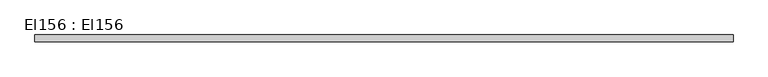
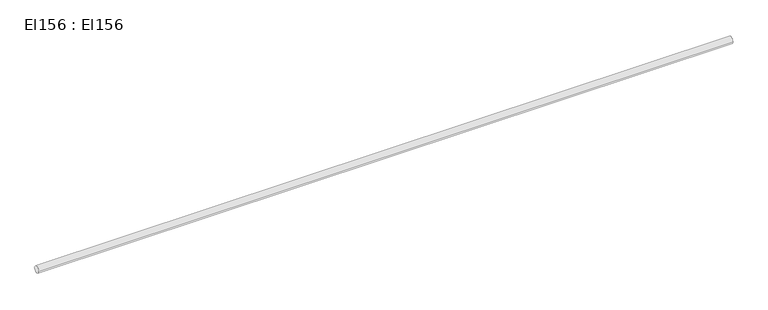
"""IFC4 building model written with IfcOpenShell, lengths in millimetres: cable carrier segment geometry, El156 : El156."""

import ifcopenshell
import ifcopenshell.guid

model = None  # the IFC model being written
_history = None  # IfcOwnerHistory: only IFC2X3 demands one
_inside = {}  # id of a spatial element -> (the spatial element, [elements in it])
_under = {}  # id of a project, library or spatial element -> (it, [spatial elements below it])
_declared = {}  # id of a project -> (the project, [libraries it declares])
_typed = {}  # id of a type object -> (the type object, [elements of that type])
_made_of = {}  # id of a material, layer set ... -> (it, [elements and type objects made of it])


def new_model(schema):
    """Start an empty IFC model of exactly this schema.

    Asked for "IFC4X3", IfcOpenShell would pick the latest addendum, in which some entities
    have other attributes; the version numbers below select the first issue.
    IFC2X3 requires an IfcOwnerHistory on every rooted entity: one is made here for all.
    """
    global model, _history
    if schema == "IFC4X3":
        model = ifcopenshell.file(schema_version=(4, 3, 0, 0))
    else:
        model = ifcopenshell.file(schema=schema)
    _inside.clear()
    _under.clear()
    _declared.clear()
    _typed.clear()
    _made_of.clear()
    _history = None
    if model.schema == "IFC2X3":
        org = make("IfcOrganization", Name="unknown")
        user = make(
            "IfcPersonAndOrganization",
            ThePerson=make("IfcPerson", FamilyName="unknown"),
            TheOrganization=org,
        )
        app = make(
            "IfcApplication",
            ApplicationDeveloper=org,
            Version="unknown",
            ApplicationFullName="unknown",
            ApplicationIdentifier="unknown",
        )
        _history = make(
            "IfcOwnerHistory",
            OwningUser=user,
            OwningApplication=app,
            ChangeAction="ADDED",
            CreationDate=0,
        )
    return model


def make(cls, **values):
    """One entity of the class cls with the attributes given. An attribute that is None is left unset."""
    return model.create_entity(
        cls, **{name: value for name, value in values.items() if value is not None}
    )


def rooted(cls, **values):
    """An entity with a GlobalId (a new one), such as an element, a storey or a relation."""
    return make(cls, GlobalId=ifcopenshell.guid.new(), OwnerHistory=_history, **values)


def si_unit(unit_type, name, prefix=None):
    """IfcSIUnit, for example si_unit("LENGTHUNIT", "METRE", prefix="MILLI")."""
    return make("IfcSIUnit", UnitType=unit_type, Prefix=prefix, Name=name)


def assignment(units):
    """IfcUnitAssignment: the units of a project."""
    return None if units is None else make("IfcUnitAssignment", Units=units)


def point(xyz):
    """IfcCartesianPoint."""
    return None if xyz is None else make("IfcCartesianPoint", Coordinates=xyz)


def direction(xyz):
    """IfcDirection."""
    return None if xyz is None else make("IfcDirection", DirectionRatios=xyz)


def frame(location, z_axis=None, x_axis=None):
    """IfcAxis2Placement3D, a coordinate frame: its origin and axes. An axis left out is left unset."""
    return make(
        "IfcAxis2Placement3D",
        Location=point(location),
        Axis=direction(z_axis),
        RefDirection=direction(x_axis),
    )


def frame_2d(location, x_axis=None):
    """IfcAxis2Placement2D, a coordinate frame in the plane: its origin and x axis."""
    return make(
        "IfcAxis2Placement2D", Location=point(location), RefDirection=direction(x_axis)
    )


def origin():
    """The frame at (0, 0, 0) with its axes left unset."""
    return frame((0.0, 0.0, 0.0))


def place(relative_to, where):
    """IfcLocalPlacement: puts the frame where relative to a parent placement (None: the world)."""
    return make(
        "IfcLocalPlacement", PlacementRelTo=relative_to, RelativePlacement=where
    )


def context(
    kind, dimensions, precision=None, world=None, true_north=None, identifier=None
):
    """IfcGeometricRepresentationContext, for example the 3D "Model" context."""
    return make(
        "IfcGeometricRepresentationContext",
        ContextIdentifier=identifier,
        ContextType=kind,
        CoordinateSpaceDimension=dimensions,
        Precision=precision,
        WorldCoordinateSystem=world,
        TrueNorth=true_north,
    )


def project(units=None, contexts=None):
    """IfcProject with its units and contexts."""
    return rooted(
        "IfcProject",
        Name="project",
        RepresentationContexts=contexts,
        UnitsInContext=assignment(units),
    )


def spatial(cls, under=None, at=None, **own):
    """A site, building, storey or space (cls), placed at a placement, below another one or the project."""
    s = rooted(cls, ObjectPlacement=at, **own)
    if under is not None:
        _under.setdefault(under.id(), (under, []))[1].append(s)
    return s


def circle_curve(where, radius):
    """IfcCircle in the frame where."""
    return make("IfcCircle", Position=where, Radius=radius)


def trimmed(basis, trim1, trim2, sense, master):
    """IfcTrimmedCurve: the piece of a basis curve between two trims."""
    return make(
        "IfcTrimmedCurve",
        BasisCurve=basis,
        Trim1=trim1,
        Trim2=trim2,
        SenseAgreement=sense,
        MasterRepresentation=master,
    )


def segment(curve, same_sense, transition):
    """IfcCompositeCurveSegment."""
    return make(
        "IfcCompositeCurveSegment",
        Transition=transition,
        SameSense=same_sense,
        ParentCurve=curve,
    )


def composite_curve(segments, self_intersect=None):
    """IfcCompositeCurve: segments joined end to end."""
    return make("IfcCompositeCurve", Segments=segments, SelfIntersect=self_intersect)


def outline(outer, holes=None, kind="AREA"):
    """IfcArbitraryClosedProfileDef: a profile drawn as a closed curve; with holes, ...WithVoids."""
    if holes is None:
        return make("IfcArbitraryClosedProfileDef", ProfileType=kind, OuterCurve=outer)
    return make(
        "IfcArbitraryProfileDefWithVoids",
        ProfileType=kind,
        OuterCurve=outer,
        InnerCurves=holes,
    )


def extrude(swept, where, along, depth):
    """IfcExtrudedAreaSolid: the profile swept, set in the frame where, extruded along a direction by depth."""
    return make(
        "IfcExtrudedAreaSolid",
        SweptArea=swept,
        Position=where,
        ExtrudedDirection=direction(along),
        Depth=depth,
    )


def shape(context_of_items, identifier, shape_type, items):
    """IfcShapeRepresentation: the items that make up one representation, for example the "Body"."""
    return make(
        "IfcShapeRepresentation",
        ContextOfItems=context_of_items,
        RepresentationIdentifier=identifier,
        RepresentationType=shape_type,
        Items=items,
    )


def source(mapping_origin, context_of_items, identifier, shape_type, items):
    """IfcRepresentationMap: a shape defined once, which mapped items show again and again."""
    return make(
        "IfcRepresentationMap",
        MappingOrigin=mapping_origin,
        MappedRepresentation=shape(context_of_items, identifier, shape_type, items),
    )


def transform(
    local_origin,
    x_axis=None,
    y_axis=None,
    z_axis=None,
    scale=None,
    scale2=None,
    scale3=None,
    uniform=True,
):
    """IfcCartesianTransformationOperator3D, or its non-uniform kind. x_axis, y_axis, z_axis: its Axis1, 2, 3."""
    if uniform:
        return make(
            "IfcCartesianTransformationOperator3D",
            Axis1=direction(x_axis),
            Axis2=direction(y_axis),
            LocalOrigin=point(local_origin),
            Scale=scale,
            Axis3=direction(z_axis),
        )
    return make(
        "IfcCartesianTransformationOperator3DnonUniform",
        Axis1=direction(x_axis),
        Axis2=direction(y_axis),
        LocalOrigin=point(local_origin),
        Scale=scale,
        Axis3=direction(z_axis),
        Scale2=scale2,
        Scale3=scale3,
    )


def mapped(mapping_source, mapping_target):
    """IfcMappedItem: shows the shape of a source again, moved by a transform."""
    return make(
        "IfcMappedItem", MappingSource=mapping_source, MappingTarget=mapping_target
    )


def made_of(thing, what):
    """Note that an element or type object is made of a material, layer set ...; save() writes the relation."""
    if what is not None:
        _made_of.setdefault(what.id(), (what, []))[1].append(thing)
    return thing


def element(
    cls,
    number,
    at=None,
    inside=None,
    cuts=None,
    type_object=None,
    material=None,
    context=None,
    identifier="Body",
    shape_type=None,
    held_by="IfcProductDefinitionShape",
    body=None,
    shapes=None,
    **own,
):
    """One element of the class cls, such as IfcWall. Its Tag is "e" and its number.

    at: its placement. inside: the storey or other place that contains it. cuts: it is an
    opening in that element (IfcRelVoidsElement). A single representation is given by context,
    identifier, shape_type and body (its items); several are given by shapes. held_by: the class
    of the entity that holds the representations. save() writes the other relations.
    """
    e = rooted(cls, Tag="e%d" % number, ObjectPlacement=at, **own)
    if body is not None:
        shapes = [shape(context, identifier, shape_type, body)]
    if shapes is not None:
        e.Representation = make(held_by, Representations=shapes)
    if inside is not None:
        _inside.setdefault(inside.id(), (inside, []))[1].append(e)
    if cuts is not None:
        rooted(
            "IfcRelVoidsElement", RelatingBuildingElement=cuts, RelatedOpeningElement=e
        )
    if type_object is not None:
        _typed.setdefault(type_object.id(), (type_object, []))[1].append(e)
    return made_of(e, material)


def aggregate(whole, parts):
    """IfcRelAggregates: a whole, such as a stair, and the parts it consists of."""
    return rooted("IfcRelAggregates", RelatingObject=whole, RelatedObjects=parts)


def save(model, path):
    """Write the relations noted so far, then the file.

    IfcRelAggregates (storeys below a building ...), IfcRelContainedInSpatialStructure (elements
    in a storey), IfcRelDefinesByType, IfcRelAssociatesMaterial and IfcRelDeclares: one each for
    every whole, place, type object, material and project.
    """
    for whole, parts in _under.values():
        aggregate(whole, parts)
    for where, things in _inside.values():
        rooted(
            "IfcRelContainedInSpatialStructure",
            RelatedElements=things,
            RelatingStructure=where,
        )
    for kind, things in _typed.values():
        rooted("IfcRelDefinesByType", RelatedObjects=things, RelatingType=kind)
    for what, things in _made_of.values():
        rooted("IfcRelAssociatesMaterial", RelatedObjects=things, RelatingMaterial=what)
    for by, libraries in _declared.values():
        rooted("IfcRelDeclares", RelatingContext=by, RelatedDefinitions=libraries)
    model.write(path)


def el156_el156_14b0a48c(model_context):
    return source(origin(), model_context, "Body", "SweptSolid", [
        extrude(outline(composite_curve([segment(trimmed(circle_curve(frame_2d((10097.1, 2950.0)), 9.5), [point((10087.6, 2950.0))], [point((10106.6, 2950.0))], False, "CARTESIAN"), True, "CONTINUOUS"), segment(trimmed(circle_curve(frame_2d((10097.1, 2950.0)), 9.5), [point((10106.6, 2950.0))], [point((10087.6, 2950.0))], False, "CARTESIAN"), True, "CONTINUOUS")], self_intersect=False)), frame((18038.3, 0.0, 0.0), z_axis=(1.0, 0.0, 0.0), x_axis=(0.0, 1.0, 0.0)), (0.0, 0.0, 1.0), 1895.0),
    ])


if __name__ == "__main__":
    model = new_model("IFC4")
    model_context = context("Model", 3, world=origin())
    ifc_project = project(units=[si_unit("LENGTHUNIT", "METRE", prefix="MILLI")], contexts=[model_context])
    site = spatial("IfcSite", under=ifc_project)
    building = spatial("IfcBuilding", under=site)
    placement = place(None, origin())
    el156_el156_shape = el156_el156_14b0a48c(model_context)
    element("IfcCableCarrierSegment", 1, ObjectType="El156 : El156", at=placement, inside=building, context=model_context, shape_type="MappedRepresentation", body=[
        mapped(el156_el156_shape, transform((0.0, 0.0, 0.0), x_axis=(1.0, 0.0, 0.0), y_axis=(0.0, 1.0, 0.0), z_axis=(0.0, 0.0, 1.0))),
    ])
    save(model, "model.ifc")
